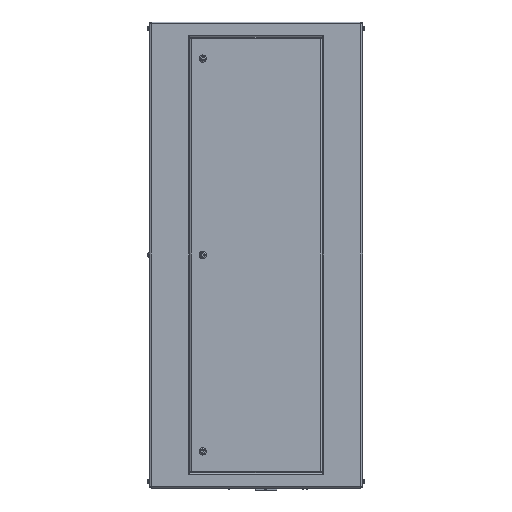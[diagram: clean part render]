
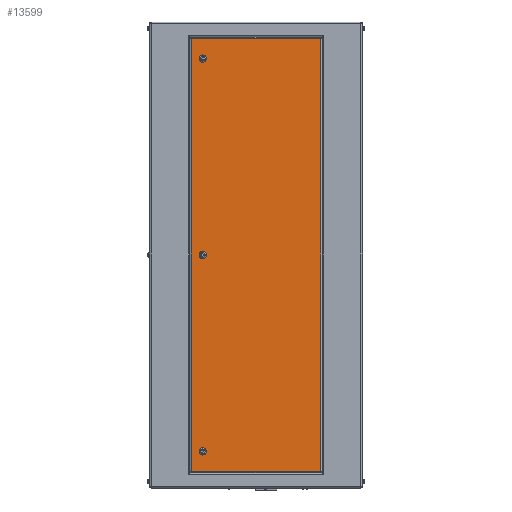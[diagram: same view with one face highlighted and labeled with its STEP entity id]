
A CAD part, left-side view. The second image highlights one B-rep face of the part: STEP entity #13599.
In plain terms, the highlighted planar face has unit normal (-1, 0, 0).
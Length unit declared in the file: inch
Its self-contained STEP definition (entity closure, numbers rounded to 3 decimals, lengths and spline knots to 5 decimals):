
#908 = PLANE ( 'NONE',  #35141 ) ;
#1493 = VECTOR ( 'NONE', #2938, 39.37008 ) ;
#1830 = ORIENTED_EDGE ( 'NONE', *, *, #3911, .T. ) ;
#2594 = CARTESIAN_POINT ( 'NONE',  ( -18.5, 16., 32.49 ) ) ;
#2938 = DIRECTION ( 'NONE',  ( 0., 1., 0. ) ) ;
#3349 = FACE_BOUND ( 'NONE', #12176, .T. ) ;
#3400 = CARTESIAN_POINT ( 'NONE',  ( -18.5, 9.74, -32.49 ) ) ;
#3585 = DIRECTION ( 'NONE',  ( 1., 0., 0. ) ) ;
#3911 = EDGE_CURVE ( 'NONE', #29792, #15991, #14749, .T. ) ;
#4035 = DIRECTION ( 'NONE',  ( 0., -1., 0. ) ) ;
#4219 = DIRECTION ( 'NONE',  ( 1., 0., 0. ) ) ;
#5079 = ORIENTED_EDGE ( 'NONE', *, *, #7088, .T. ) ;
#5526 = EDGE_CURVE ( 'NONE', #13992, #34965, #36258, .T. ) ;
#5686 = ORIENTED_EDGE ( 'NONE', *, *, #14140, .T. ) ;
#5847 = ORIENTED_EDGE ( 'NONE', *, *, #15986, .T. ) ;
#6414 = CARTESIAN_POINT ( 'NONE',  ( -18.5, 8., -0.55 ) ) ;
#6758 = CARTESIAN_POINT ( 'NONE',  ( -18.5, 16., -35. ) ) ;
#6842 = CARTESIAN_POINT ( 'NONE',  ( -18.5, 8., -29.5 ) ) ;
#7088 = EDGE_CURVE ( 'NONE', #17283, #8324, #8818, .T. ) ;
#8324 = VERTEX_POINT ( 'NONE', #17926 ) ;
#8563 = CIRCLE ( 'NONE', #34070, 0.55 ) ;
#8818 = LINE ( 'NONE', #2594, #1493 ) ;
#9169 = AXIS2_PLACEMENT_3D ( 'NONE', #10187, #22174, #25035 ) ;
#9253 = AXIS2_PLACEMENT_3D ( 'NONE', #25782, #22731, #22902 ) ;
#9275 = CARTESIAN_POINT ( 'NONE',  ( -18.5, -9.74, -32.49 ) ) ;
#9403 = EDGE_CURVE ( 'NONE', #8324, #17850, #12236, .T. ) ;
#9947 = VERTEX_POINT ( 'NONE', #14246 ) ;
#10187 = CARTESIAN_POINT ( 'NONE',  ( -18.5, 8., 29.5 ) ) ;
#10744 = CARTESIAN_POINT ( 'NONE',  ( -18.5, 8., 30.05 ) ) ;
#10864 = CARTESIAN_POINT ( 'NONE',  ( -18.5, 8., 0. ) ) ;
#11051 = ORIENTED_EDGE ( 'NONE', *, *, #5526, .T. ) ;
#11277 = LINE ( 'NONE', #11460, #16485 ) ;
#11460 = CARTESIAN_POINT ( 'NONE',  ( -18.5, -9.74, -35. ) ) ;
#11821 = DIRECTION ( 'NONE',  ( 0., 0., -1. ) ) ;
#11884 = FACE_OUTER_BOUND ( 'NONE', #29893, .T. ) ;
#12110 = AXIS2_PLACEMENT_3D ( 'NONE', #30225, #4219, #27420 ) ;
#12167 = EDGE_LOOP ( 'NONE', ( #5686, #24092 ) ) ;
#12176 = EDGE_LOOP ( 'NONE', ( #1830, #35840 ) ) ;
#12236 = LINE ( 'NONE', #23840, #31726 ) ;
#12593 = DIRECTION ( 'NONE',  ( 0., 0., -1. ) ) ;
#13455 = VECTOR ( 'NONE', #4035, 39.37008 ) ;
#13599 = ADVANCED_FACE ( 'NONE', ( #17589, #3349, #26913, #11884 ), #908, .F. ) ;
#13992 = VERTEX_POINT ( 'NONE', #18501 ) ;
#14140 = EDGE_CURVE ( 'NONE', #9947, #16448, #30305, .T. ) ;
#14246 = CARTESIAN_POINT ( 'NONE',  ( -18.5, 8., 28.95 ) ) ;
#14699 = DIRECTION ( 'NONE',  ( 0., 0., 1. ) ) ;
#14749 = CIRCLE ( 'NONE', #35354, 0.55 ) ;
#15034 = ORIENTED_EDGE ( 'NONE', *, *, #9403, .T. ) ;
#15837 = CARTESIAN_POINT ( 'NONE',  ( -18.5, 16., -32.49 ) ) ;
#15986 = EDGE_CURVE ( 'NONE', #37201, #17283, #11277, .T. ) ;
#15991 = VERTEX_POINT ( 'NONE', #34451 ) ;
#16448 = VERTEX_POINT ( 'NONE', #10744 ) ;
#16485 = VECTOR ( 'NONE', #14699, 39.37008 ) ;
#17283 = VERTEX_POINT ( 'NONE', #21721 ) ;
#17589 = FACE_BOUND ( 'NONE', #34755, .T. ) ;
#17850 = VERTEX_POINT ( 'NONE', #3400 ) ;
#17926 = CARTESIAN_POINT ( 'NONE',  ( -18.5, 9.74, 32.49 ) ) ;
#18035 = DIRECTION ( 'NONE',  ( 0., 0., -1. ) ) ;
#18278 = CIRCLE ( 'NONE', #9169, 0.55 ) ;
#18321 = LINE ( 'NONE', #15837, #13455 ) ;
#18501 = CARTESIAN_POINT ( 'NONE',  ( -18.5, 8., -28.95 ) ) ;
#20636 = EDGE_CURVE ( 'NONE', #15991, #29792, #35347, .T. ) ;
#21349 = ORIENTED_EDGE ( 'NONE', *, *, #22525, .T. ) ;
#21721 = CARTESIAN_POINT ( 'NONE',  ( -18.5, -9.74, 32.49 ) ) ;
#22137 = EDGE_CURVE ( 'NONE', #34965, #13992, #8563, .T. ) ;
#22174 = DIRECTION ( 'NONE',  ( 1., 0., 0. ) ) ;
#22525 = EDGE_CURVE ( 'NONE', #17850, #37201, #18321, .T. ) ;
#22731 = DIRECTION ( 'NONE',  ( 1., 0., 0. ) ) ;
#22902 = DIRECTION ( 'NONE',  ( 0., 0., -1. ) ) ;
#23307 = DIRECTION ( 'NONE',  ( 1., 0., 0. ) ) ;
#23840 = CARTESIAN_POINT ( 'NONE',  ( -18.5, 9.74, -35. ) ) ;
#24092 = ORIENTED_EDGE ( 'NONE', *, *, #32458, .T. ) ;
#24319 = DIRECTION ( 'NONE',  ( 0., 0., -1. ) ) ;
#24757 = AXIS2_PLACEMENT_3D ( 'NONE', #6842, #36242, #24319 ) ;
#25035 = DIRECTION ( 'NONE',  ( 0., 0., -1. ) ) ;
#25782 = CARTESIAN_POINT ( 'NONE',  ( -18.5, 8., 0. ) ) ;
#26913 = FACE_BOUND ( 'NONE', #12167, .T. ) ;
#27420 = DIRECTION ( 'NONE',  ( 0., 0., -1. ) ) ;
#28927 = ORIENTED_EDGE ( 'NONE', *, *, #22137, .T. ) ;
#29183 = DIRECTION ( 'NONE',  ( 0., 0., -1. ) ) ;
#29792 = VERTEX_POINT ( 'NONE', #6414 ) ;
#29893 = EDGE_LOOP ( 'NONE', ( #21349, #5847, #5079, #15034 ) ) ;
#30225 = CARTESIAN_POINT ( 'NONE',  ( -18.5, 8., 29.5 ) ) ;
#30305 = CIRCLE ( 'NONE', #12110, 0.55 ) ;
#31726 = VECTOR ( 'NONE', #12593, 39.37008 ) ;
#32068 = CARTESIAN_POINT ( 'NONE',  ( -18.5, 8., -29.5 ) ) ;
#32458 = EDGE_CURVE ( 'NONE', #16448, #9947, #18278, .T. ) ;
#34070 = AXIS2_PLACEMENT_3D ( 'NONE', #32068, #3585, #18035 ) ;
#34451 = CARTESIAN_POINT ( 'NONE',  ( -18.5, 8., 0.55 ) ) ;
#34627 = DIRECTION ( 'NONE',  ( 1., 0., 0. ) ) ;
#34755 = EDGE_LOOP ( 'NONE', ( #28927, #11051 ) ) ;
#34965 = VERTEX_POINT ( 'NONE', #35225 ) ;
#35141 = AXIS2_PLACEMENT_3D ( 'NONE', #6758, #23307, #29183 ) ;
#35225 = CARTESIAN_POINT ( 'NONE',  ( -18.5, 8., -30.05 ) ) ;
#35347 = CIRCLE ( 'NONE', #9253, 0.55 ) ;
#35354 = AXIS2_PLACEMENT_3D ( 'NONE', #10864, #34627, #11821 ) ;
#35840 = ORIENTED_EDGE ( 'NONE', *, *, #20636, .T. ) ;
#36242 = DIRECTION ( 'NONE',  ( 1., 0., 0. ) ) ;
#36258 = CIRCLE ( 'NONE', #24757, 0.55 ) ;
#37201 = VERTEX_POINT ( 'NONE', #9275 ) ;
